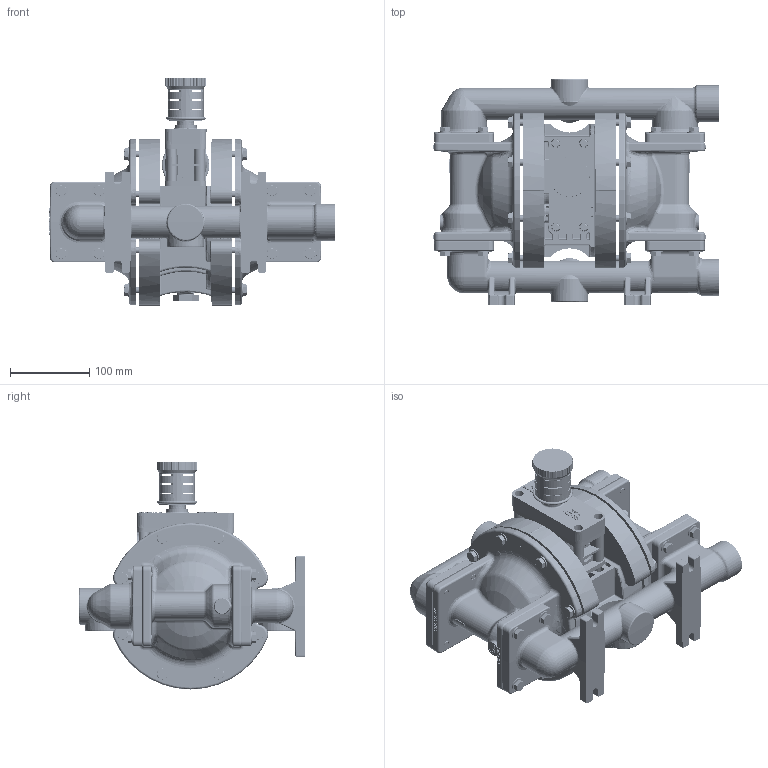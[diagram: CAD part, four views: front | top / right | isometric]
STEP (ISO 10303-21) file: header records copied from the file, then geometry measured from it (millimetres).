
FILE_DESCRIPTION((''),'2;1');
FILE_NAME('P200_ADVANCED_AL_METAL','2009-04-24T',('Roy'),(''),'PRO/ENGINEER BY PARAMETRIC TECHNOLOGY CORPORATION, 2008400','PRO/ENGINEER BY PARAMETRIC TECHNOLOGY CORPORATION, 2008400','');
FILE_SCHEMA(('CONFIG_CONTROL_DESIGN'));
Products named in the file (1): P200_ADVANCED_AL_METAL
Bounding box: 360.25 x 285.75 x 286.81 mm (x, y, z)
Volume: 4132916.3 mm3; surface area: 1010560.3 mm2
Topology: 5 solids, 13 shells, 11142 faces, 28500 edges, 17368 vertices
Faces by surface type: plane 5219, cylinder 2485, bspline 1103, torus 962, cone 832, sphere 541
Entity records: 428753 total; most frequent: CARTESIAN_POINT 173074, ORIENTED_EDGE 55974, DIRECTION 49346, EDGE_CURVE 27987, VERTEX_POINT 17368, AXIS2_PLACEMENT_3D 17203, VECTOR 14940, LINE 14940
